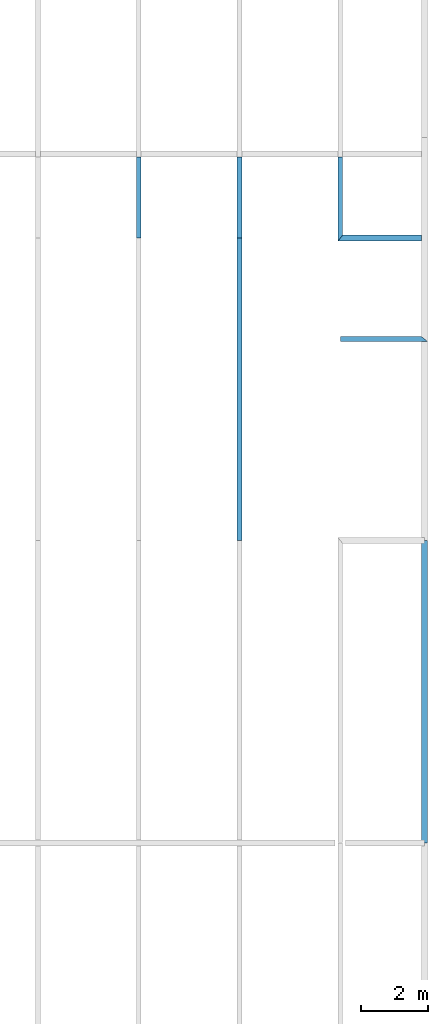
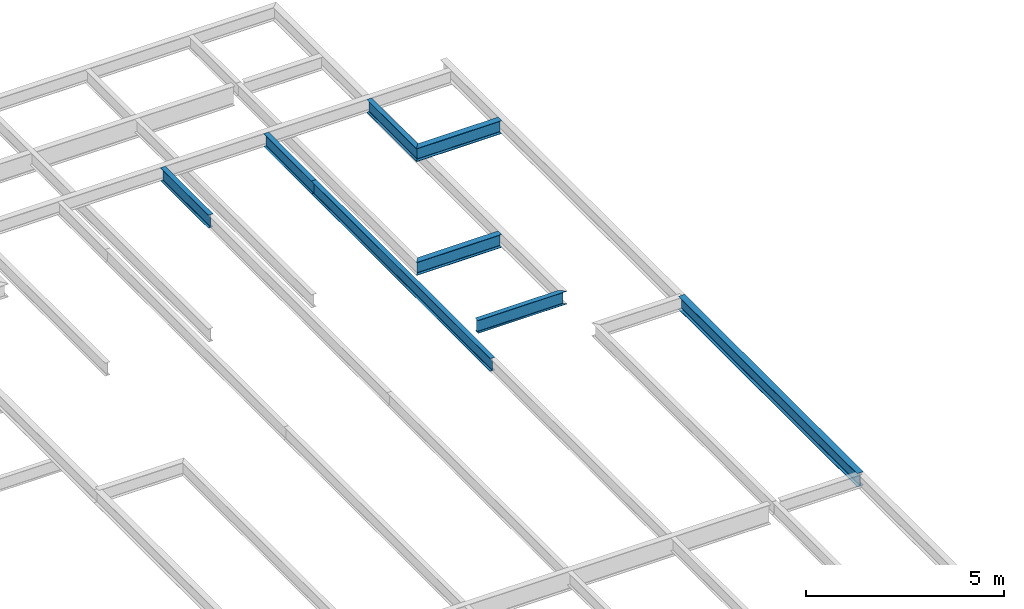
# One storey, part 5 of 7: 8 beams.
"""IFC2X3 building model written with IfcOpenShell, lengths in millimetres."""

from ifc_helpers import new_model, si_unit, origin, place, context, project, spatial, faceted_brep, material, element, save


model = new_model("IFC2X3")

# Units and contexts
context_of_model = context(None, 3, precision=1e-05, world=origin())
ifc_project = project(units=[si_unit("LENGTHUNIT", "METRE", prefix="MILLI")], contexts=[context_of_model])

# Building, storey
building = spatial("IfcBuilding", under=ifc_project, Name="Building", CompositionType="ELEMENT")
storey = spatial("IfcBuildingStorey", under=building, Name="ROF-FRM", CompositionType="ELEMENT")

# Beams
ifc_material_1 = material(Name="A992")
beam_1_placement = place(None, origin())
element("IfcBeam", 1, at=beam_1_placement, inside=storey, material=ifc_material_1, Name="B1126", context=context_of_model, shape_type="Brep", body=[
    faceted_brep([(11930.0, 26911.0, 27766.0), (12070.0, 27089.0, 27766.0), (14410.0, 27089.0, 27766.0), (14410.0, 26911.0, 27766.0), (12070.0, 27089.0, 27778.8), (14410.0, 27089.0, 27778.8), (12011.1, 27014.0, 27778.8), (14410.0, 27014.0, 27778.8), (12009.9, 27012.6, 27778.9), (14410.0, 27012.6, 27778.9), (12008.8, 27011.2, 27779.2), (14410.0, 27011.2, 27779.2), (12007.7, 27009.8, 27779.7), (14410.0, 27009.8, 27779.7), (12006.7, 27008.6, 27780.4), (14410.0, 27008.5, 27780.4), (12005.8, 27007.4, 27781.3), (14410.0, 27007.4, 27781.3), (12005.0, 27006.4, 27782.3), (14410.0, 27006.3, 27782.3), (12004.3, 27005.5, 27783.5), (14410.0, 27005.5, 27783.5), (12003.8, 27004.8, 27784.7), (14410.0, 27004.8, 27784.8), (12003.4, 27004.3, 27786.1), (14410.0, 27004.3, 27786.1), (12003.1, 27004.0, 27787.5), (14410.0, 27004.0, 27787.5), (12003.0, 27003.8, 27789.0), (14410.0, 27003.8, 27789.0), (12003.0, 27003.8, 28150.0), (14410.0, 27003.8, 28150.0), (12003.1, 27004.0, 28151.5), (14410.0, 27004.0, 28151.5), (12003.4, 27004.3, 28152.9), (14410.0, 27004.3, 28152.9), (12003.8, 27004.8, 28154.3), (14410.0, 27004.8, 28154.2), (12004.3, 27005.5, 28155.5), (14410.0, 27005.5, 28155.5), (12005.0, 27006.4, 28156.7), (14410.0, 27006.3, 28156.7), (12005.8, 27007.4, 28157.7), (14410.0, 27007.4, 28157.7), (12006.7, 27008.6, 28158.6), (14410.0, 27008.5, 28158.6), (12007.7, 27009.8, 28159.3), (14410.0, 27009.8, 28159.3), (12008.8, 27011.2, 28159.8), (14410.0, 27011.2, 28159.8), (12009.9, 27012.6, 28160.1), (14410.0, 27012.6, 28160.1), (12011.1, 27014.0, 28160.2), (14410.0, 27014.0, 28160.2), (12070.0, 27089.0, 28160.2), (14410.0, 27089.0, 28160.2), (12070.0, 27089.0, 28173.0), (14410.0, 27089.0, 28173.0), (11930.0, 26911.0, 28173.0), (14410.0, 26911.0, 28173.0), (11930.0, 26911.0, 28160.2), (14410.0, 26911.0, 28160.2), (11988.9, 26986.0, 28160.2), (14410.0, 26986.0, 28160.2), (11990.1, 26987.4, 28160.1), (14410.0, 26987.4, 28160.1), (11991.2, 26988.8, 28159.8), (14410.0, 26988.8, 28159.8), (11992.3, 26990.2, 28159.3), (14410.0, 26990.2, 28159.3), (11993.3, 26991.4, 28158.6), (14410.0, 26991.5, 28158.6), (11994.2, 26992.6, 28157.7), (14410.0, 26992.6, 28157.7), (11995.0, 26993.6, 28156.7), (14410.0, 26993.7, 28156.7), (11995.7, 26994.5, 28155.5), (14410.0, 26994.5, 28155.5), (11996.2, 26995.2, 28154.3), (14410.0, 26995.2, 28154.2), (11996.6, 26995.7, 28152.9), (14410.0, 26995.7, 28152.9), (11996.9, 26996.0, 28151.5), (14410.0, 26996.0, 28151.5), (11997.0, 26996.2, 28150.0), (14410.0, 26996.2, 28150.0), (11997.0, 26996.2, 27789.0), (14410.0, 26996.2, 27789.0), (11996.9, 26996.0, 27787.5), (14410.0, 26996.0, 27787.5), (11996.6, 26995.7, 27786.1), (14410.0, 26995.7, 27786.1), (11996.2, 26995.2, 27784.7), (14410.0, 26995.2, 27784.8), (11995.7, 26994.5, 27783.5), (14410.0, 26994.5, 27783.5), (11995.0, 26993.6, 27782.3), (14410.0, 26993.7, 27782.3), (11994.2, 26992.6, 27781.3), (14410.0, 26992.6, 27781.3), (11993.3, 26991.4, 27780.4), (14410.0, 26991.5, 27780.4), (11992.3, 26990.2, 27779.7), (14410.0, 26990.2, 27779.7), (11991.2, 26988.8, 27779.2), (14410.0, 26988.8, 27779.2), (11990.1, 26987.4, 27778.9), (14410.0, 26987.4, 27778.9), (11988.9, 26986.0, 27778.8), (14410.0, 26986.0, 27778.8), (11930.0, 26911.0, 27778.8), (14410.0, 26911.0, 27778.8)], [[[0, 1, 2, 3]], [[1, 4, 5, 2]], [[4, 6, 7, 5]], [[6, 8, 9, 7]], [[8, 10, 11, 9]], [[10, 12, 13, 11]], [[12, 14, 15, 13]], [[14, 16, 17, 15]], [[16, 18, 19, 17]], [[18, 20, 21, 19]], [[20, 22, 23, 21]], [[22, 24, 25, 23]], [[24, 26, 27, 25]], [[26, 28, 29, 27]], [[28, 30, 31, 29]], [[30, 32, 33, 31]], [[32, 34, 35, 33]], [[34, 36, 37, 35]], [[36, 38, 39, 37]], [[38, 40, 41, 39]], [[40, 42, 43, 41]], [[42, 44, 45, 43]], [[44, 46, 47, 45]], [[46, 48, 49, 47]], [[48, 50, 51, 49]], [[50, 52, 53, 51]], [[52, 54, 55, 53]], [[54, 56, 57, 55]], [[56, 58, 59, 57]], [[58, 60, 61, 59]], [[60, 62, 63, 61]], [[62, 64, 65, 63]], [[64, 66, 67, 65]], [[66, 68, 69, 67]], [[68, 70, 71, 69]], [[70, 72, 73, 71]], [[72, 74, 75, 73]], [[74, 76, 77, 75]], [[76, 78, 79, 77]], [[78, 80, 81, 79]], [[80, 82, 83, 81]], [[82, 84, 85, 83]], [[84, 86, 87, 85]], [[86, 88, 89, 87]], [[88, 90, 91, 89]], [[90, 92, 93, 91]], [[92, 94, 95, 93]], [[94, 96, 97, 95]], [[96, 98, 99, 97]], [[98, 100, 101, 99]], [[100, 102, 103, 101]], [[102, 104, 105, 103]], [[104, 106, 107, 105]], [[106, 108, 109, 107]], [[108, 110, 111, 109]], [[110, 0, 3, 111]], [[0, 110, 108, 106, 104, 102, 100, 98, 96, 94, 92, 90, 88, 86, 84, 82, 80, 78, 76, 74, 72, 70, 68, 66, 64, 62, 60, 58, 56, 54, 52, 50, 48, 46, 44, 42, 40, 38, 36, 34, 32, 30, 28, 26, 24, 22, 20, 18, 16, 14, 12, 10, 8, 6, 4, 1]], [[3, 2, 5, 7, 9, 11, 13, 15, 17, 19, 21, 23, 25, 27, 29, 31, 33, 35, 37, 39, 41, 43, 45, 47, 49, 51, 53, 55, 57, 59, 61, 63, 65, 67, 69, 71, 73, 75, 77, 79, 81, 83, 85, 87, 89, 91, 93, 95, 97, 99, 101, 103, 105, 107, 109, 111]]]),
])
ifc_material_2 = material(Name="A992")
beam_2_placement = place(None, origin())
element("IfcBeam", 2, at=beam_2_placement, inside=storey, material=ifc_material_2, Name="B1130", context=context_of_model, shape_type="Brep", body=[
    faceted_brep([(11930.0, 26911.0, 31266.0), (12070.0, 27089.0, 31266.0), (14410.0, 27089.0, 31266.0), (14410.0, 26911.0, 31266.0), (12070.0, 27089.0, 31278.8), (14410.0, 27089.0, 31278.8), (12011.1, 27014.0, 31278.8), (14410.0, 27014.0, 31278.8), (12009.9, 27012.6, 31278.9), (14410.0, 27012.6, 31278.9), (12008.8, 27011.2, 31279.2), (14410.0, 27011.2, 31279.2), (12007.7, 27009.8, 31279.7), (14410.0, 27009.8, 31279.7), (12006.7, 27008.6, 31280.4), (14410.0, 27008.5, 31280.4), (12005.8, 27007.4, 31281.3), (14410.0, 27007.4, 31281.3), (12005.0, 27006.4, 31282.3), (14410.0, 27006.3, 31282.3), (12004.3, 27005.5, 31283.5), (14410.0, 27005.5, 31283.5), (12003.8, 27004.8, 31284.7), (14410.0, 27004.8, 31284.8), (12003.4, 27004.3, 31286.1), (14410.0, 27004.3, 31286.1), (12003.1, 27004.0, 31287.5), (14410.0, 27004.0, 31287.5), (12003.0, 27003.8, 31289.0), (14410.0, 27003.8, 31289.0), (12003.0, 27003.8, 31650.0), (14410.0, 27003.8, 31650.0), (12003.1, 27004.0, 31651.5), (14410.0, 27004.0, 31651.5), (12003.4, 27004.3, 31652.9), (14410.0, 27004.3, 31652.9), (12003.8, 27004.8, 31654.3), (14410.0, 27004.8, 31654.2), (12004.3, 27005.5, 31655.5), (14410.0, 27005.5, 31655.5), (12005.0, 27006.4, 31656.7), (14410.0, 27006.3, 31656.7), (12005.8, 27007.4, 31657.7), (14410.0, 27007.4, 31657.7), (12006.7, 27008.6, 31658.6), (14410.0, 27008.5, 31658.6), (12007.7, 27009.8, 31659.3), (14410.0, 27009.8, 31659.3), (12008.8, 27011.2, 31659.8), (14410.0, 27011.2, 31659.8), (12009.9, 27012.6, 31660.1), (14410.0, 27012.6, 31660.1), (12011.1, 27014.0, 31660.2), (14410.0, 27014.0, 31660.2), (12070.0, 27089.0, 31660.2), (14410.0, 27089.0, 31660.2), (12070.0, 27089.0, 31673.0), (14410.0, 27089.0, 31673.0), (11930.0, 26911.0, 31673.0), (14410.0, 26911.0, 31673.0), (11930.0, 26911.0, 31660.2), (14410.0, 26911.0, 31660.2), (11988.9, 26986.0, 31660.2), (14410.0, 26986.0, 31660.2), (11990.1, 26987.4, 31660.1), (14410.0, 26987.4, 31660.1), (11991.2, 26988.8, 31659.8), (14410.0, 26988.8, 31659.8), (11992.3, 26990.2, 31659.3), (14410.0, 26990.2, 31659.3), (11993.3, 26991.4, 31658.6), (14410.0, 26991.5, 31658.6), (11994.2, 26992.6, 31657.7), (14410.0, 26992.6, 31657.7), (11995.0, 26993.6, 31656.7), (14410.0, 26993.7, 31656.7), (11995.7, 26994.5, 31655.5), (14410.0, 26994.5, 31655.5), (11996.2, 26995.2, 31654.3), (14410.0, 26995.2, 31654.2), (11996.6, 26995.7, 31652.9), (14410.0, 26995.7, 31652.9), (11996.9, 26996.0, 31651.5), (14410.0, 26996.0, 31651.5), (11997.0, 26996.2, 31650.0), (14410.0, 26996.2, 31650.0), (11997.0, 26996.2, 31289.0), (14410.0, 26996.2, 31289.0), (11996.9, 26996.0, 31287.5), (14410.0, 26996.0, 31287.5), (11996.6, 26995.7, 31286.1), (14410.0, 26995.7, 31286.1), (11996.2, 26995.2, 31284.7), (14410.0, 26995.2, 31284.8), (11995.7, 26994.5, 31283.5), (14410.0, 26994.5, 31283.5), (11995.0, 26993.6, 31282.3), (14410.0, 26993.7, 31282.3), (11994.2, 26992.6, 31281.3), (14410.0, 26992.6, 31281.3), (11993.3, 26991.4, 31280.4), (14410.0, 26991.5, 31280.4), (11992.3, 26990.2, 31279.7), (14410.0, 26990.2, 31279.7), (11991.2, 26988.8, 31279.2), (14410.0, 26988.8, 31279.2), (11990.1, 26987.4, 31278.9), (14410.0, 26987.4, 31278.9), (11988.9, 26986.0, 31278.8), (14410.0, 26986.0, 31278.8), (11930.0, 26911.0, 31278.8), (14410.0, 26911.0, 31278.8)], [[[0, 1, 2, 3]], [[1, 4, 5, 2]], [[4, 6, 7, 5]], [[6, 8, 9, 7]], [[8, 10, 11, 9]], [[10, 12, 13, 11]], [[12, 14, 15, 13]], [[14, 16, 17, 15]], [[16, 18, 19, 17]], [[18, 20, 21, 19]], [[20, 22, 23, 21]], [[22, 24, 25, 23]], [[24, 26, 27, 25]], [[26, 28, 29, 27]], [[28, 30, 31, 29]], [[30, 32, 33, 31]], [[32, 34, 35, 33]], [[34, 36, 37, 35]], [[36, 38, 39, 37]], [[38, 40, 41, 39]], [[40, 42, 43, 41]], [[42, 44, 45, 43]], [[44, 46, 47, 45]], [[46, 48, 49, 47]], [[48, 50, 51, 49]], [[50, 52, 53, 51]], [[52, 54, 55, 53]], [[54, 56, 57, 55]], [[56, 58, 59, 57]], [[58, 60, 61, 59]], [[60, 62, 63, 61]], [[62, 64, 65, 63]], [[64, 66, 67, 65]], [[66, 68, 69, 67]], [[68, 70, 71, 69]], [[70, 72, 73, 71]], [[72, 74, 75, 73]], [[74, 76, 77, 75]], [[76, 78, 79, 77]], [[78, 80, 81, 79]], [[80, 82, 83, 81]], [[82, 84, 85, 83]], [[84, 86, 87, 85]], [[86, 88, 89, 87]], [[88, 90, 91, 89]], [[90, 92, 93, 91]], [[92, 94, 95, 93]], [[94, 96, 97, 95]], [[96, 98, 99, 97]], [[98, 100, 101, 99]], [[100, 102, 103, 101]], [[102, 104, 105, 103]], [[104, 106, 107, 105]], [[106, 108, 109, 107]], [[108, 110, 111, 109]], [[110, 0, 3, 111]], [[0, 110, 108, 106, 104, 102, 100, 98, 96, 94, 92, 90, 88, 86, 84, 82, 80, 78, 76, 74, 72, 70, 68, 66, 64, 62, 60, 58, 56, 54, 52, 50, 48, 46, 44, 42, 40, 38, 36, 34, 32, 30, 28, 26, 24, 22, 20, 18, 16, 14, 12, 10, 8, 6, 4, 1]], [[3, 2, 5, 7, 9, 11, 13, 15, 17, 19, 21, 23, 25, 27, 29, 31, 33, 35, 37, 39, 41, 43, 45, 47, 49, 51, 53, 55, 57, 59, 61, 63, 65, 67, 69, 71, 73, 75, 77, 79, 81, 83, 85, 87, 89, 91, 93, 95, 97, 99, 101, 103, 105, 107, 109, 111]]]),
])
ifc_material_3 = material(Name="A992")
beam_3_placement = place(None, origin())
element("IfcBeam", 3, at=beam_3_placement, inside=storey, material=ifc_material_3, Name="B1138", context=context_of_model, shape_type="Brep", body=[
    faceted_brep([(14590.0, 9000.0, 31260.0), (14410.0, 9000.0, 31260.0), (14410.0, 18000.0, 31260.0), (14590.0, 18000.0, 31260.0), (14410.0, 9000.0, 31276.0), (14410.0, 18000.0, 31276.0), (14485.0, 9000.0, 31276.0), (14485.0, 18000.0, 31276.0), (14487.6, 9000.0, 31276.3), (14487.6, 18000.0, 31276.3), (14490.1, 9000.0, 31277.4), (14490.1, 18000.0, 31277.4), (14492.2, 9000.0, 31279.0), (14492.2, 18000.0, 31279.0), (14493.8, 9000.0, 31281.1), (14493.8, 18000.0, 31281.1), (14494.8, 9000.0, 31283.6), (14494.8, 18000.0, 31283.6), (14495.2, 9000.0, 31286.2), (14495.2, 18000.0, 31286.2), (14495.2, 9000.0, 31646.8), (14495.2, 18000.0, 31646.8), (14494.8, 9000.0, 31649.4), (14494.8, 18000.0, 31649.4), (14493.8, 9000.0, 31651.9), (14493.8, 18000.0, 31651.9), (14492.2, 9000.0, 31654.0), (14492.2, 18000.0, 31654.0), (14490.1, 9000.0, 31655.6), (14490.1, 18000.0, 31655.6), (14487.6, 9000.0, 31656.7), (14487.6, 18000.0, 31656.7), (14485.0, 9000.0, 31657.0), (14485.0, 18000.0, 31657.0), (14410.0, 9000.0, 31657.0), (14410.0, 18000.0, 31657.0), (14410.0, 9000.0, 31673.0), (14410.0, 18000.0, 31673.0), (14590.0, 9000.0, 31673.0), (14590.0, 18000.0, 31673.0), (14590.0, 9000.0, 31657.0), (14590.0, 18000.0, 31657.0), (14515.0, 9000.0, 31657.0), (14515.0, 18000.0, 31657.0), (14512.4, 9000.0, 31656.7), (14512.4, 18000.0, 31656.7), (14509.9, 9000.0, 31655.6), (14509.9, 18000.0, 31655.6), (14507.8, 9000.0, 31654.0), (14507.8, 18000.0, 31654.0), (14506.2, 9000.0, 31651.9), (14506.2, 18000.0, 31651.9), (14505.2, 9000.0, 31649.4), (14505.2, 18000.0, 31649.4), (14504.8, 9000.0, 31646.8), (14504.8, 18000.0, 31646.8), (14504.8, 9000.0, 31286.2), (14504.8, 18000.0, 31286.2), (14505.2, 9000.0, 31283.6), (14505.2, 18000.0, 31283.6), (14506.2, 9000.0, 31281.1), (14506.2, 18000.0, 31281.1), (14507.8, 9000.0, 31279.0), (14507.8, 18000.0, 31279.0), (14509.9, 9000.0, 31277.4), (14509.9, 18000.0, 31277.4), (14512.4, 9000.0, 31276.3), (14512.4, 18000.0, 31276.3), (14515.0, 9000.0, 31276.0), (14515.0, 18000.0, 31276.0), (14590.0, 9000.0, 31276.0), (14590.0, 18000.0, 31276.0)], [[[0, 1, 2, 3]], [[1, 4, 5, 2]], [[4, 6, 7, 5]], [[6, 8, 9, 7]], [[8, 10, 11, 9]], [[10, 12, 13, 11]], [[12, 14, 15, 13]], [[14, 16, 17, 15]], [[16, 18, 19, 17]], [[18, 20, 21, 19]], [[20, 22, 23, 21]], [[22, 24, 25, 23]], [[24, 26, 27, 25]], [[26, 28, 29, 27]], [[28, 30, 31, 29]], [[30, 32, 33, 31]], [[32, 34, 35, 33]], [[34, 36, 37, 35]], [[36, 38, 39, 37]], [[38, 40, 41, 39]], [[40, 42, 43, 41]], [[42, 44, 45, 43]], [[44, 46, 47, 45]], [[46, 48, 49, 47]], [[48, 50, 51, 49]], [[50, 52, 53, 51]], [[52, 54, 55, 53]], [[54, 56, 57, 55]], [[56, 58, 59, 57]], [[58, 60, 61, 59]], [[60, 62, 63, 61]], [[62, 64, 65, 63]], [[64, 66, 67, 65]], [[66, 68, 69, 67]], [[68, 70, 71, 69]], [[70, 0, 3, 71]], [[0, 70, 68, 66, 64, 62, 60, 58, 56, 54, 52, 50, 48, 46, 44, 42, 40, 38, 36, 34, 32, 30, 28, 26, 24, 22, 20, 18, 16, 14, 12, 10, 8, 6, 4, 1]], [[3, 2, 5, 7, 9, 11, 13, 15, 17, 19, 21, 23, 25, 27, 29, 31, 33, 35, 37, 39, 41, 43, 45, 47, 49, 51, 53, 55, 57, 59, 61, 63, 65, 67, 69, 71]]]),
])
ifc_material_4 = material(Name="A992")
beam_4_placement = place(None, origin())
element("IfcBeam", 4, at=beam_4_placement, inside=storey, material=ifc_material_4, Name="B1145", context=context_of_model, shape_type="Brep", body=[
    faceted_brep([(14410.0, 24070.0, 27774.0), (14590.0, 23930.0, 27774.0), (12000.0, 23930.0, 27774.0), (12000.0, 24070.0, 27774.0), (14590.0, 23930.0, 27782.8), (12000.0, 23930.0, 27782.8), (14517.2, 23986.6, 27782.8), (12000.0, 23986.6, 27782.8), (14515.2, 23988.2, 27782.9), (12000.0, 23988.2, 27782.9), (14513.2, 23989.7, 27783.3), (12000.0, 23989.8, 27783.3), (14511.3, 23991.2, 27783.9), (12000.0, 23991.2, 27783.9), (14509.6, 23992.5, 27784.7), (12000.0, 23992.6, 27784.7), (14508.0, 23993.8, 27785.8), (12000.0, 23993.8, 27785.8), (14506.7, 23994.8, 27786.9), (12000.0, 23994.9, 27787.0), (14505.6, 23995.7, 27788.3), (12000.0, 23995.7, 27788.4), (14504.8, 23996.3, 27789.8), (12000.0, 23996.3, 27789.8), (14504.3, 23996.6, 27791.4), (12000.0, 23996.7, 27791.4), (14504.1, 23996.8, 27793.0), (12000.0, 23996.8, 27793.0), (14504.1, 23996.8, 28154.0), (12000.0, 23996.8, 28154.0), (14504.3, 23996.6, 28155.6), (12000.0, 23996.7, 28155.6), (14504.8, 23996.3, 28157.2), (12000.0, 23996.3, 28157.2), (14505.6, 23995.7, 28158.7), (12000.0, 23995.7, 28158.6), (14506.7, 23994.8, 28160.1), (12000.0, 23994.9, 28160.0), (14508.0, 23993.8, 28161.2), (12000.0, 23993.8, 28161.2), (14509.6, 23992.5, 28162.3), (12000.0, 23992.6, 28162.3), (14511.3, 23991.2, 28163.1), (12000.0, 23991.2, 28163.1), (14513.2, 23989.7, 28163.7), (12000.0, 23989.8, 28163.7), (14515.2, 23988.2, 28164.1), (12000.0, 23988.2, 28164.1), (14517.2, 23986.6, 28164.2), (12000.0, 23986.6, 28164.2), (14590.0, 23930.0, 28164.2), (12000.0, 23930.0, 28164.2), (14590.0, 23930.0, 28173.0), (12000.0, 23930.0, 28173.0), (14410.0, 24070.0, 28173.0), (12000.0, 24070.0, 28173.0), (14410.0, 24070.0, 28164.2), (12000.0, 24070.0, 28164.2), (14482.8, 24013.4, 28164.2), (12000.0, 24013.4, 28164.2), (14484.8, 24011.8, 28164.1), (12000.0, 24011.8, 28164.1), (14486.8, 24010.3, 28163.7), (12000.0, 24010.2, 28163.7), (14488.7, 24008.8, 28163.1), (12000.0, 24008.8, 28163.1), (14490.4, 24007.5, 28162.3), (12000.0, 24007.4, 28162.3), (14492.0, 24006.2, 28161.2), (12000.0, 24006.2, 28161.2), (14493.3, 24005.2, 28160.1), (12000.0, 24005.1, 28160.0), (14494.4, 24004.3, 28158.7), (12000.0, 24004.3, 28158.6), (14495.2, 24003.7, 28157.2), (12000.0, 24003.7, 28157.2), (14495.7, 24003.4, 28155.6), (12000.0, 24003.3, 28155.6), (14495.9, 24003.2, 28154.0), (12000.0, 24003.2, 28154.0), (14495.9, 24003.2, 27793.0), (12000.0, 24003.2, 27793.0), (14495.7, 24003.4, 27791.4), (12000.0, 24003.3, 27791.4), (14495.2, 24003.7, 27789.8), (12000.0, 24003.7, 27789.8), (14494.4, 24004.3, 27788.3), (12000.0, 24004.3, 27788.4), (14493.3, 24005.2, 27786.9), (12000.0, 24005.1, 27787.0), (14492.0, 24006.2, 27785.8), (12000.0, 24006.2, 27785.8), (14490.4, 24007.5, 27784.7), (12000.0, 24007.4, 27784.7), (14488.7, 24008.8, 27783.9), (12000.0, 24008.8, 27783.9), (14486.8, 24010.3, 27783.3), (12000.0, 24010.2, 27783.3), (14484.8, 24011.8, 27782.9), (12000.0, 24011.8, 27782.9), (14482.8, 24013.4, 27782.8), (12000.0, 24013.4, 27782.8), (14410.0, 24070.0, 27782.8), (12000.0, 24070.0, 27782.8)], [[[0, 1, 2, 3]], [[1, 4, 5, 2]], [[4, 6, 7, 5]], [[6, 8, 9, 7]], [[8, 10, 11, 9]], [[10, 12, 13, 11]], [[12, 14, 15, 13]], [[14, 16, 17, 15]], [[16, 18, 19, 17]], [[18, 20, 21, 19]], [[20, 22, 23, 21]], [[22, 24, 25, 23]], [[24, 26, 27, 25]], [[26, 28, 29, 27]], [[28, 30, 31, 29]], [[30, 32, 33, 31]], [[32, 34, 35, 33]], [[34, 36, 37, 35]], [[36, 38, 39, 37]], [[38, 40, 41, 39]], [[40, 42, 43, 41]], [[42, 44, 45, 43]], [[44, 46, 47, 45]], [[46, 48, 49, 47]], [[48, 50, 51, 49]], [[50, 52, 53, 51]], [[52, 54, 55, 53]], [[54, 56, 57, 55]], [[56, 58, 59, 57]], [[58, 60, 61, 59]], [[60, 62, 63, 61]], [[62, 64, 65, 63]], [[64, 66, 67, 65]], [[66, 68, 69, 67]], [[68, 70, 71, 69]], [[70, 72, 73, 71]], [[72, 74, 75, 73]], [[74, 76, 77, 75]], [[76, 78, 79, 77]], [[78, 80, 81, 79]], [[80, 82, 83, 81]], [[82, 84, 85, 83]], [[84, 86, 87, 85]], [[86, 88, 89, 87]], [[88, 90, 91, 89]], [[90, 92, 93, 91]], [[92, 94, 95, 93]], [[94, 96, 97, 95]], [[96, 98, 99, 97]], [[98, 100, 101, 99]], [[100, 102, 103, 101]], [[102, 0, 3, 103]], [[0, 102, 100, 98, 96, 94, 92, 90, 88, 86, 84, 82, 80, 78, 76, 74, 72, 70, 68, 66, 64, 62, 60, 58, 56, 54, 52, 50, 48, 46, 44, 42, 40, 38, 36, 34, 32, 30, 28, 26, 24, 22, 20, 18, 16, 14, 12, 10, 8, 6, 4, 1]], [[3, 2, 5, 7, 9, 11, 13, 15, 17, 19, 21, 23, 25, 27, 29, 31, 33, 35, 37, 39, 41, 43, 45, 47, 49, 51, 53, 55, 57, 59, 61, 63, 65, 67, 69, 71, 73, 75, 77, 79, 81, 83, 85, 87, 89, 91, 93, 95, 97, 99, 101, 103]]]),
])
ifc_material_5 = material(Name="A992")
beam_5_placement = place(None, origin())
element("IfcBeam", 5, at=beam_5_placement, inside=storey, material=ifc_material_5, Name="B1188", context=context_of_model, shape_type="Brep", body=[
    faceted_brep([(9070.0, 27000.0, 31270.0), (8930.0, 27000.0, 31270.0), (8930.0, 29410.0, 31270.0), (9070.0, 29410.0, 31270.0), (8930.0, 27000.0, 31281.2), (8930.0, 29410.0, 31281.2), (8986.3, 27000.0, 31281.2), (8986.3, 29410.0, 31281.2), (8988.94, 27000.0, 31281.5), (8988.94, 29410.0, 31281.5), (8991.4, 27000.0, 31282.6), (8991.4, 29410.0, 31282.6), (8993.51, 27000.0, 31284.2), (8993.51, 29410.0, 31284.2), (8995.13, 27000.0, 31286.3), (8995.13, 29410.0, 31286.3), (8996.15, 27000.0, 31288.8), (8996.15, 29410.0, 31288.8), (8996.5, 27000.0, 31291.4), (8996.5, 29410.0, 31291.4), (8996.5, 27000.0, 31651.6), (8996.5, 29410.0, 31651.6), (8996.15, 27000.0, 31654.2), (8996.15, 29410.0, 31654.2), (8995.13, 27000.0, 31656.7), (8995.13, 29410.0, 31656.7), (8993.51, 27000.0, 31658.8), (8993.51, 29410.0, 31658.8), (8991.4, 27000.0, 31660.4), (8991.4, 29410.0, 31660.4), (8988.94, 27000.0, 31661.5), (8988.94, 29410.0, 31661.5), (8986.3, 27000.0, 31661.8), (8986.3, 29410.0, 31661.8), (8930.0, 27000.0, 31661.8), (8930.0, 29410.0, 31661.8), (8930.0, 27000.0, 31673.0), (8930.0, 29410.0, 31673.0), (9070.0, 27000.0, 31673.0), (9070.0, 29410.0, 31673.0), (9070.0, 27000.0, 31661.8), (9070.0, 29410.0, 31661.8), (9013.7, 27000.0, 31661.8), (9013.7, 29410.0, 31661.8), (9011.06, 27000.0, 31661.5), (9011.06, 29410.0, 31661.5), (9008.6, 27000.0, 31660.4), (9008.6, 29410.0, 31660.4), (9006.49, 27000.0, 31658.8), (9006.49, 29410.0, 31658.8), (9004.87, 27000.0, 31656.7), (9004.87, 29410.0, 31656.7), (9003.85, 27000.0, 31654.2), (9003.85, 29410.0, 31654.2), (9003.5, 27000.0, 31651.6), (9003.5, 29410.0, 31651.6), (9003.5, 27000.0, 31291.4), (9003.5, 29410.0, 31291.4), (9003.85, 27000.0, 31288.8), (9003.85, 29410.0, 31288.8), (9004.87, 27000.0, 31286.3), (9004.87, 29410.0, 31286.3), (9006.49, 27000.0, 31284.2), (9006.49, 29410.0, 31284.2), (9008.6, 27000.0, 31282.6), (9008.6, 29410.0, 31282.6), (9011.06, 27000.0, 31281.5), (9011.06, 29410.0, 31281.5), (9013.7, 27000.0, 31281.2), (9013.7, 29410.0, 31281.2), (9070.0, 27000.0, 31281.2), (9070.0, 29410.0, 31281.2)], [[[0, 1, 2, 3]], [[1, 4, 5, 2]], [[4, 6, 7, 5]], [[6, 8, 9, 7]], [[8, 10, 11, 9]], [[10, 12, 13, 11]], [[12, 14, 15, 13]], [[14, 16, 17, 15]], [[16, 18, 19, 17]], [[18, 20, 21, 19]], [[20, 22, 23, 21]], [[22, 24, 25, 23]], [[24, 26, 27, 25]], [[26, 28, 29, 27]], [[28, 30, 31, 29]], [[30, 32, 33, 31]], [[32, 34, 35, 33]], [[34, 36, 37, 35]], [[36, 38, 39, 37]], [[38, 40, 41, 39]], [[40, 42, 43, 41]], [[42, 44, 45, 43]], [[44, 46, 47, 45]], [[46, 48, 49, 47]], [[48, 50, 51, 49]], [[50, 52, 53, 51]], [[52, 54, 55, 53]], [[54, 56, 57, 55]], [[56, 58, 59, 57]], [[58, 60, 61, 59]], [[60, 62, 63, 61]], [[62, 64, 65, 63]], [[64, 66, 67, 65]], [[66, 68, 69, 67]], [[68, 70, 71, 69]], [[70, 0, 3, 71]], [[0, 70, 68, 66, 64, 62, 60, 58, 56, 54, 52, 50, 48, 46, 44, 42, 40, 38, 36, 34, 32, 30, 28, 26, 24, 22, 20, 18, 16, 14, 12, 10, 8, 6, 4, 1]], [[3, 2, 5, 7, 9, 11, 13, 15, 17, 19, 21, 23, 25, 27, 29, 31, 33, 35, 37, 39, 41, 43, 45, 47, 49, 51, 53, 55, 57, 59, 61, 63, 65, 67, 69, 71]]]),
])
ifc_material_6 = material(Name="A992")
beam_6_placement = place(None, origin())
element("IfcBeam", 6, at=beam_6_placement, inside=storey, material=ifc_material_6, Name="B1179", context=context_of_model, shape_type="Brep", body=[
    faceted_brep([(6070.0, 27000.0, 31270.0), (5930.0, 27000.0, 31270.0), (5930.0, 29410.0, 31270.0), (6070.0, 29410.0, 31270.0), (5930.0, 27000.0, 31281.2), (5930.0, 29410.0, 31281.2), (5986.3, 27000.0, 31281.2), (5986.3, 29410.0, 31281.2), (5988.94, 27000.0, 31281.5), (5988.94, 29410.0, 31281.5), (5991.4, 27000.0, 31282.6), (5991.4, 29410.0, 31282.6), (5993.51, 27000.0, 31284.2), (5993.51, 29410.0, 31284.2), (5995.13, 27000.0, 31286.3), (5995.13, 29410.0, 31286.3), (5996.15, 27000.0, 31288.8), (5996.15, 29410.0, 31288.8), (5996.5, 27000.0, 31291.4), (5996.5, 29410.0, 31291.4), (5996.5, 27000.0, 31651.6), (5996.5, 29410.0, 31651.6), (5996.15, 27000.0, 31654.2), (5996.15, 29410.0, 31654.2), (5995.13, 27000.0, 31656.7), (5995.13, 29410.0, 31656.7), (5993.51, 27000.0, 31658.8), (5993.51, 29410.0, 31658.8), (5991.4, 27000.0, 31660.4), (5991.4, 29410.0, 31660.4), (5988.94, 27000.0, 31661.5), (5988.94, 29410.0, 31661.5), (5986.3, 27000.0, 31661.8), (5986.3, 29410.0, 31661.8), (5930.0, 27000.0, 31661.8), (5930.0, 29410.0, 31661.8), (5930.0, 27000.0, 31673.0), (5930.0, 29410.0, 31673.0), (6070.0, 27000.0, 31673.0), (6070.0, 29410.0, 31673.0), (6070.0, 27000.0, 31661.8), (6070.0, 29410.0, 31661.8), (6013.7, 27000.0, 31661.8), (6013.7, 29410.0, 31661.8), (6011.06, 27000.0, 31661.5), (6011.06, 29410.0, 31661.5), (6008.6, 27000.0, 31660.4), (6008.6, 29410.0, 31660.4), (6006.49, 27000.0, 31658.8), (6006.49, 29410.0, 31658.8), (6004.87, 27000.0, 31656.7), (6004.87, 29410.0, 31656.7), (6003.85, 27000.0, 31654.2), (6003.85, 29410.0, 31654.2), (6003.5, 27000.0, 31651.6), (6003.5, 29410.0, 31651.6), (6003.5, 27000.0, 31291.4), (6003.5, 29410.0, 31291.4), (6003.85, 27000.0, 31288.8), (6003.85, 29410.0, 31288.8), (6004.87, 27000.0, 31286.3), (6004.87, 29410.0, 31286.3), (6006.49, 27000.0, 31284.2), (6006.49, 29410.0, 31284.2), (6008.6, 27000.0, 31282.6), (6008.6, 29410.0, 31282.6), (6011.06, 27000.0, 31281.5), (6011.06, 29410.0, 31281.5), (6013.7, 27000.0, 31281.2), (6013.7, 29410.0, 31281.2), (6070.0, 27000.0, 31281.2), (6070.0, 29410.0, 31281.2)], [[[0, 1, 2, 3]], [[1, 4, 5, 2]], [[4, 6, 7, 5]], [[6, 8, 9, 7]], [[8, 10, 11, 9]], [[10, 12, 13, 11]], [[12, 14, 15, 13]], [[14, 16, 17, 15]], [[16, 18, 19, 17]], [[18, 20, 21, 19]], [[20, 22, 23, 21]], [[22, 24, 25, 23]], [[24, 26, 27, 25]], [[26, 28, 29, 27]], [[28, 30, 31, 29]], [[30, 32, 33, 31]], [[32, 34, 35, 33]], [[34, 36, 37, 35]], [[36, 38, 39, 37]], [[38, 40, 41, 39]], [[40, 42, 43, 41]], [[42, 44, 45, 43]], [[44, 46, 47, 45]], [[46, 48, 49, 47]], [[48, 50, 51, 49]], [[50, 52, 53, 51]], [[52, 54, 55, 53]], [[54, 56, 57, 55]], [[56, 58, 59, 57]], [[58, 60, 61, 59]], [[60, 62, 63, 61]], [[62, 64, 65, 63]], [[64, 66, 67, 65]], [[66, 68, 69, 67]], [[68, 70, 71, 69]], [[70, 0, 3, 71]], [[0, 70, 68, 66, 64, 62, 60, 58, 56, 54, 52, 50, 48, 46, 44, 42, 40, 38, 36, 34, 32, 30, 28, 26, 24, 22, 20, 18, 16, 14, 12, 10, 8, 6, 4, 1]], [[3, 2, 5, 7, 9, 11, 13, 15, 17, 19, 21, 23, 25, 27, 29, 31, 33, 35, 37, 39, 41, 43, 45, 47, 49, 51, 53, 55, 57, 59, 61, 63, 65, 67, 69, 71]]]),
])
ifc_material_7 = material(Name="A992")
beam_7_placement = place(None, origin())
element("IfcBeam", 7, at=beam_7_placement, inside=storey, material=ifc_material_7, Name="B1181", context=context_of_model, shape_type="Brep", body=[
    faceted_brep([(12070.0, 27089.0, 31274.0), (11930.0, 26911.0, 31274.0), (11930.0, 29410.0, 31274.0), (12070.0, 29410.0, 31274.0), (11930.0, 26911.0, 31282.8), (11930.0, 29410.0, 31282.8), (11986.6, 26983.0, 31282.8), (11986.6, 29410.0, 31282.8), (11988.0, 26984.8, 31282.9), (11988.1, 29410.0, 31282.9), (11989.5, 26986.6, 31283.2), (11989.5, 29410.0, 31283.2), (11990.8, 26988.3, 31283.7), (11990.8, 29410.0, 31283.7), (11992.1, 26989.9, 31284.4), (11992.1, 29410.0, 31284.4), (11993.3, 26991.4, 31285.2), (11993.3, 29410.0, 31285.3), (11994.3, 26992.7, 31286.3), (11994.3, 29410.0, 31286.3), (11995.1, 26993.8, 31287.4), (11995.2, 29410.0, 31287.5), (11995.9, 26994.8, 31288.7), (11995.9, 29410.0, 31288.8), (11996.3, 26995.4, 31290.1), (11996.4, 29410.0, 31290.1), (11996.6, 26995.7, 31291.5), (11996.7, 29410.0, 31291.5), (11996.8, 26995.9, 31293.0), (11996.8, 29410.0, 31293.0), (11996.8, 26995.9, 31654.0), (11996.8, 29410.0, 31654.0), (11996.6, 26995.7, 31655.5), (11996.7, 29410.0, 31655.5), (11996.3, 26995.4, 31656.9), (11996.4, 29410.0, 31656.9), (11995.9, 26994.8, 31658.3), (11995.9, 29410.0, 31658.2), (11995.1, 26993.8, 31659.6), (11995.2, 29410.0, 31659.5), (11994.3, 26992.7, 31660.7), (11994.3, 29410.0, 31660.7), (11993.3, 26991.4, 31661.8), (11993.3, 29410.0, 31661.7), (11992.1, 26989.9, 31662.6), (11992.1, 29410.0, 31662.6), (11990.8, 26988.3, 31663.3), (11990.8, 29410.0, 31663.3), (11989.5, 26986.6, 31663.8), (11989.5, 29410.0, 31663.8), (11988.0, 26984.8, 31664.1), (11988.1, 29410.0, 31664.1), (11986.6, 26983.0, 31664.2), (11986.6, 29410.0, 31664.2), (11930.0, 26911.0, 31664.2), (11930.0, 29410.0, 31664.2), (11930.0, 26911.0, 31673.0), (11930.0, 29410.0, 31673.0), (12070.0, 27089.0, 31673.0), (12070.0, 29410.0, 31673.0), (12070.0, 27089.0, 31664.2), (12070.0, 29410.0, 31664.2), (12013.4, 27017.0, 31664.2), (12013.4, 29410.0, 31664.2), (12012.0, 27015.2, 31664.1), (12011.9, 29410.0, 31664.1), (12010.5, 27013.4, 31663.8), (12010.5, 29410.0, 31663.8), (12009.2, 27011.7, 31663.3), (12009.2, 29410.0, 31663.3), (12007.9, 27010.1, 31662.6), (12007.9, 29410.0, 31662.6), (12006.7, 27008.6, 31661.8), (12006.7, 29410.0, 31661.7), (12005.7, 27007.3, 31660.7), (12005.7, 29410.0, 31660.7), (12004.9, 27006.2, 31659.6), (12004.8, 29410.0, 31659.5), (12004.1, 27005.2, 31658.3), (12004.1, 29410.0, 31658.2), (12003.7, 27004.6, 31656.9), (12003.6, 29410.0, 31656.9), (12003.4, 27004.3, 31655.5), (12003.3, 29410.0, 31655.5), (12003.2, 27004.1, 31654.0), (12003.2, 29410.0, 31654.0), (12003.2, 27004.1, 31293.0), (12003.2, 29410.0, 31293.0), (12003.4, 27004.3, 31291.5), (12003.3, 29410.0, 31291.5), (12003.7, 27004.6, 31290.1), (12003.6, 29410.0, 31290.1), (12004.1, 27005.2, 31288.7), (12004.1, 29410.0, 31288.8), (12004.9, 27006.2, 31287.4), (12004.8, 29410.0, 31287.5), (12005.7, 27007.3, 31286.3), (12005.7, 29410.0, 31286.3), (12006.7, 27008.6, 31285.2), (12006.7, 29410.0, 31285.3), (12007.9, 27010.1, 31284.4), (12007.9, 29410.0, 31284.4), (12009.2, 27011.7, 31283.7), (12009.2, 29410.0, 31283.7), (12010.5, 27013.4, 31283.2), (12010.5, 29410.0, 31283.2), (12012.0, 27015.2, 31282.9), (12011.9, 29410.0, 31282.9), (12013.4, 27017.0, 31282.8), (12013.4, 29410.0, 31282.8), (12070.0, 27089.0, 31282.8), (12070.0, 29410.0, 31282.8)], [[[0, 1, 2, 3]], [[1, 4, 5, 2]], [[4, 6, 7, 5]], [[6, 8, 9, 7]], [[8, 10, 11, 9]], [[10, 12, 13, 11]], [[12, 14, 15, 13]], [[14, 16, 17, 15]], [[16, 18, 19, 17]], [[18, 20, 21, 19]], [[20, 22, 23, 21]], [[22, 24, 25, 23]], [[24, 26, 27, 25]], [[26, 28, 29, 27]], [[28, 30, 31, 29]], [[30, 32, 33, 31]], [[32, 34, 35, 33]], [[34, 36, 37, 35]], [[36, 38, 39, 37]], [[38, 40, 41, 39]], [[40, 42, 43, 41]], [[42, 44, 45, 43]], [[44, 46, 47, 45]], [[46, 48, 49, 47]], [[48, 50, 51, 49]], [[50, 52, 53, 51]], [[52, 54, 55, 53]], [[54, 56, 57, 55]], [[56, 58, 59, 57]], [[58, 60, 61, 59]], [[60, 62, 63, 61]], [[62, 64, 65, 63]], [[64, 66, 67, 65]], [[66, 68, 69, 67]], [[68, 70, 71, 69]], [[70, 72, 73, 71]], [[72, 74, 75, 73]], [[74, 76, 77, 75]], [[76, 78, 79, 77]], [[78, 80, 81, 79]], [[80, 82, 83, 81]], [[82, 84, 85, 83]], [[84, 86, 87, 85]], [[86, 88, 89, 87]], [[88, 90, 91, 89]], [[90, 92, 93, 91]], [[92, 94, 95, 93]], [[94, 96, 97, 95]], [[96, 98, 99, 97]], [[98, 100, 101, 99]], [[100, 102, 103, 101]], [[102, 104, 105, 103]], [[104, 106, 107, 105]], [[106, 108, 109, 107]], [[108, 110, 111, 109]], [[110, 0, 3, 111]], [[0, 110, 108, 106, 104, 102, 100, 98, 96, 94, 92, 90, 88, 86, 84, 82, 80, 78, 76, 74, 72, 70, 68, 66, 64, 62, 60, 58, 56, 54, 52, 50, 48, 46, 44, 42, 40, 38, 36, 34, 32, 30, 28, 26, 24, 22, 20, 18, 16, 14, 12, 10, 8, 6, 4, 1]], [[3, 2, 5, 7, 9, 11, 13, 15, 17, 19, 21, 23, 25, 27, 29, 31, 33, 35, 37, 39, 41, 43, 45, 47, 49, 51, 53, 55, 57, 59, 61, 63, 65, 67, 69, 71, 73, 75, 77, 79, 81, 83, 85, 87, 89, 91, 93, 95, 97, 99, 101, 103, 105, 107, 109, 111]]]),
])
ifc_material_8 = material(Name="A992")
beam_8_placement = place(None, origin())
element("IfcBeam", 8, at=beam_8_placement, inside=storey, material=ifc_material_8, Name="B1187", context=context_of_model, shape_type="Brep", body=[
    faceted_brep([(8930.0, 27000.0, 31270.0), (9070.0, 27000.0, 31270.0), (9070.0, 18000.0, 31270.0), (8930.0, 18000.0, 31270.0), (9070.0, 27000.0, 31281.2), (9070.0, 18000.0, 31281.2), (9013.7, 27000.0, 31281.2), (9013.7, 18000.0, 31281.2), (9011.06, 27000.0, 31281.5), (9011.06, 18000.0, 31281.5), (9008.6, 27000.0, 31282.6), (9008.6, 18000.0, 31282.6), (9006.49, 27000.0, 31284.2), (9006.49, 18000.0, 31284.2), (9004.87, 27000.0, 31286.3), (9004.87, 18000.0, 31286.3), (9003.85, 27000.0, 31288.8), (9003.85, 18000.0, 31288.8), (9003.5, 27000.0, 31291.4), (9003.5, 18000.0, 31291.4), (9003.5, 27000.0, 31651.6), (9003.5, 18000.0, 31651.6), (9003.85, 27000.0, 31654.2), (9003.85, 18000.0, 31654.2), (9004.87, 27000.0, 31656.7), (9004.87, 18000.0, 31656.7), (9006.49, 27000.0, 31658.8), (9006.49, 18000.0, 31658.8), (9008.6, 27000.0, 31660.4), (9008.6, 18000.0, 31660.4), (9011.06, 27000.0, 31661.5), (9011.06, 18000.0, 31661.5), (9013.7, 27000.0, 31661.8), (9013.7, 18000.0, 31661.8), (9070.0, 27000.0, 31661.8), (9070.0, 18000.0, 31661.8), (9070.0, 27000.0, 31673.0), (9070.0, 18000.0, 31673.0), (8930.0, 27000.0, 31673.0), (8930.0, 18000.0, 31673.0), (8930.0, 27000.0, 31661.8), (8930.0, 18000.0, 31661.8), (8986.3, 27000.0, 31661.8), (8986.3, 18000.0, 31661.8), (8988.94, 27000.0, 31661.5), (8988.94, 18000.0, 31661.5), (8991.4, 27000.0, 31660.4), (8991.4, 18000.0, 31660.4), (8993.51, 27000.0, 31658.8), (8993.51, 18000.0, 31658.8), (8995.13, 27000.0, 31656.7), (8995.13, 18000.0, 31656.7), (8996.15, 27000.0, 31654.2), (8996.15, 18000.0, 31654.2), (8996.5, 27000.0, 31651.6), (8996.5, 18000.0, 31651.6), (8996.5, 27000.0, 31291.4), (8996.5, 18000.0, 31291.4), (8996.15, 27000.0, 31288.8), (8996.15, 18000.0, 31288.8), (8995.13, 27000.0, 31286.3), (8995.13, 18000.0, 31286.3), (8993.51, 27000.0, 31284.2), (8993.51, 18000.0, 31284.2), (8991.4, 27000.0, 31282.6), (8991.4, 18000.0, 31282.6), (8988.94, 27000.0, 31281.5), (8988.94, 18000.0, 31281.5), (8986.3, 27000.0, 31281.2), (8986.3, 18000.0, 31281.2), (8930.0, 27000.0, 31281.2), (8930.0, 18000.0, 31281.2)], [[[0, 1, 2, 3]], [[1, 4, 5, 2]], [[4, 6, 7, 5]], [[6, 8, 9, 7]], [[8, 10, 11, 9]], [[10, 12, 13, 11]], [[12, 14, 15, 13]], [[14, 16, 17, 15]], [[16, 18, 19, 17]], [[18, 20, 21, 19]], [[20, 22, 23, 21]], [[22, 24, 25, 23]], [[24, 26, 27, 25]], [[26, 28, 29, 27]], [[28, 30, 31, 29]], [[30, 32, 33, 31]], [[32, 34, 35, 33]], [[34, 36, 37, 35]], [[36, 38, 39, 37]], [[38, 40, 41, 39]], [[40, 42, 43, 41]], [[42, 44, 45, 43]], [[44, 46, 47, 45]], [[46, 48, 49, 47]], [[48, 50, 51, 49]], [[50, 52, 53, 51]], [[52, 54, 55, 53]], [[54, 56, 57, 55]], [[56, 58, 59, 57]], [[58, 60, 61, 59]], [[60, 62, 63, 61]], [[62, 64, 65, 63]], [[64, 66, 67, 65]], [[66, 68, 69, 67]], [[68, 70, 71, 69]], [[70, 0, 3, 71]], [[0, 70, 68, 66, 64, 62, 60, 58, 56, 54, 52, 50, 48, 46, 44, 42, 40, 38, 36, 34, 32, 30, 28, 26, 24, 22, 20, 18, 16, 14, 12, 10, 8, 6, 4, 1]], [[3, 2, 5, 7, 9, 11, 13, 15, 17, 19, 21, 23, 25, 27, 29, 31, 33, 35, 37, 39, 41, 43, 45, 47, 49, 51, 53, 55, 57, 59, 61, 63, 65, 67, 69, 71]]]),
])

save(model, "model.ifc")
